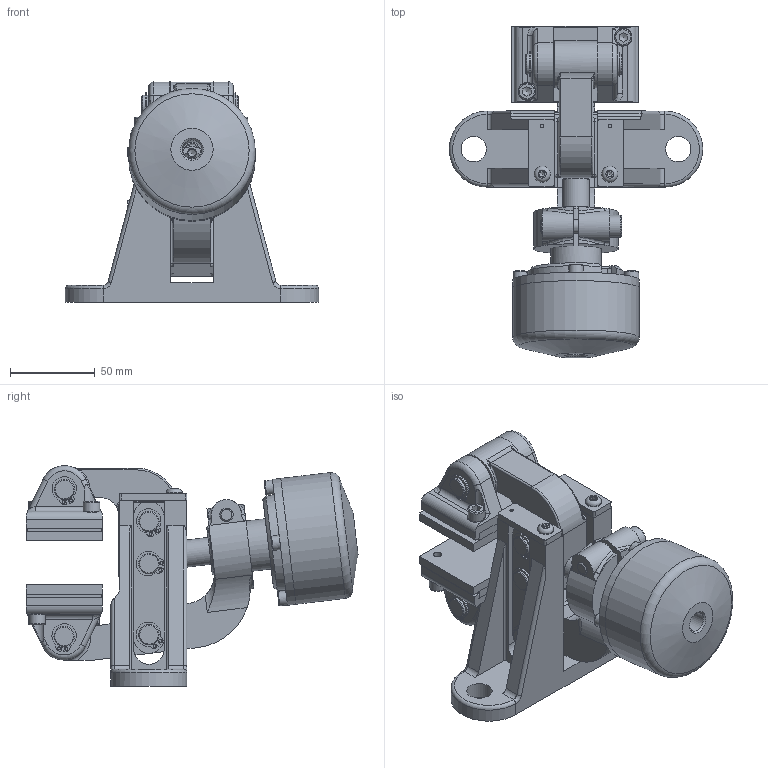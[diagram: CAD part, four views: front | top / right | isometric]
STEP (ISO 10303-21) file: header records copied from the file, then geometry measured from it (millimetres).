
FILE_DESCRIPTION(/* description */ ('','CAx-IF Rec.Pracs.---Representation and Presentation of Product Manufacturing Information (PMI)---4.0---2014-10-13'),/* implementation_level */ '2;1');
FILE_NAME(/* name */ 'X:\INVENTOR\DISEGNI\19_Pinze\STEP x Sito\PNEUM-POSITIVE\19_16_011_04 PPD011_25,4.stp',/* time_stamp */ '2018-02-14T07:39:02+01:00',/* author */ ('stefano'),/* organization */ (''),/* preprocessor_version */ 'ST-DEVELOPER v17',/* originating_system */ 'Autodesk Inventor 2018',/* authorisation */ '');
FILE_SCHEMA (('AP242_MANAGED_MODEL_BASED_3D_ENGINEERING_MIM_LF { 1 0 10303 442 1 1 4 }'));
Length unit declared in the file: millimetre
Products named in the file (1): 19_16_011_04 PPD011_25,4_Substitute_1
Bounding box: 150 x 196.47 x 130.5 mm (x, y, z)
Volume: 708456.3 mm3; surface area: 143671.2 mm2
Topology: 4 solids, 4 shells, 787 faces, 2198 edges, 1452 vertices
Faces by surface type: plane 423, cylinder 247, torus 47, cone 45, bspline 24, sphere 1
Full cylindrical faces by diameter (mm): 1.7 x20, 2 x2, 3 x1, 4.134 x1, 4.917 x8, 5 x1, 6 x1, 7.25 x2, 8 x2, 8.5 x5, 9.5 x4, 10 x8, 11.445 x1, 11.5 x10, 12 x23, 13 x1, 13.5 x1, 15 x2, 16 x2, 19 x1, 22.6 x1, 30 x1, 56.5 x1, 58 x1, 75 x2
Entity records: 30064 total; most frequent: CARTESIAN_POINT 8624, DIRECTION 4420, ORIENTED_EDGE 4364, EDGE_CURVE 2182, AXIS2_PLACEMENT_3D 1658, VERTEX_POINT 1452, LINE 1104, VECTOR 1104
